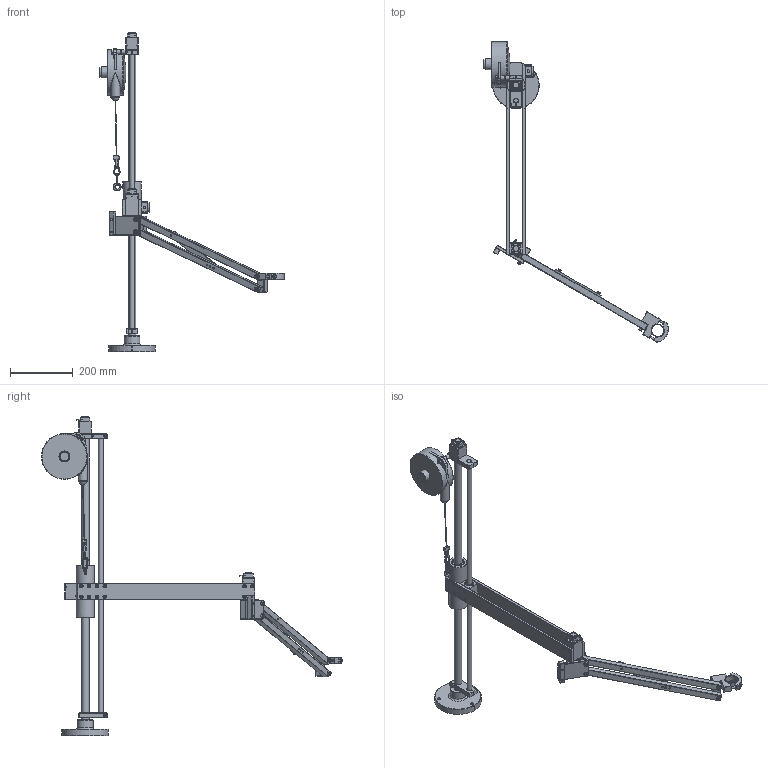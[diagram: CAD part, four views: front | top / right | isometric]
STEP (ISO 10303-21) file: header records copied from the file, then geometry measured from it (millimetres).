
FILE_DESCRIPTION( ( 'Unknown' ), '1' );
FILE_NAME( 'E:/0 Travail/0 Travaux en cours/Doga/Assemblage 2014/BIBLIOTEQUE 3D/Industrie 2008/08-51-3384 DOGA BA100 R RPC/4-1200477_bras BA 100 RPC_900/4-1200477_bras BA 100 RPC_900.stp', 'Unknown', ( 'Unknown' ), ( 'Unknown' ), 'PSStep 14.0', 'Unknown', ' ' );
FILE_SCHEMA( ( 'AUTOMOTIVE_DESIGN { 1 0 10303 214 1 1 1 1 }' ) );
Length unit declared in the file: millimetre
Products named in the file (57): Arrière bras BA100RPC rallongé 900; Fourreau BA100R; Piton M6; Douille KB16; AXE DIA 20; Support Pivot modifi\X2\00E\X0\; Douille KB25; Douille KB25-oa2; FHC M6x20; Roulement à aiguilles HK2020; Aimant; Butée à aiguilles AXK1730; Anneau élastique pour arbre 16; Pivot N°3 - BA100R DPA; Rondelle AS1730; Chapeau 5mm; Capteur de position angulaire QUADRO-R-oa3; Boitier de dérivation; plaque support BA100R RPC V2 rallongé 900; Plaque support BA100R RPC Rallongé 900; Asm Pince BA100R; CHC M6x45 fileté sous tete; CHC M6x45 fileté sous tete-oa0; collier; Pince BA100R; Placement'; Equilibreur BA100R modifi\X2\00E\X0\; Equilibreur 6 - 8Kg; Entretoise; Entretoise-oa1; CHC M8x50; Avant bras BA100RPC rallongé 900; Barrette; Règle immobilisatrice; Platine 2; 20 Z; Pivot pantographe BA100R DPA; CHC M6x25; CHC M6x25-oa4; CHC M8x40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
Assembly tree (79 placements, depth 3):
  Assem1
    Butée à aiguilles AXK1730
    Anneau élastique pour arbre 16
    Aimant
    Capteur de position angulaire QUADRO-R
    Roulement à aiguilles HK1616  x2
    fourreau pour BA100R DPA
    Rondelle AS1730  x2
    Cable
    Axe Ø16- BA100R DPA
    Platine fixation fourreau pour BA100R
    Platine fixation N°2 - BA100R DPA
    Mat BA100
      Vis HC M8x12 à bout plat
      Axe mat BA100
      Pied BA100
    Asm Pince BA100R
      CHC M6x45 fileté sous tete
      CHC M6x45 fileté sous tete-oa0
      collier
      Pince BA100R
      Placement'
    Equilibreur BA100R modifi\X2\00E\X0\
      Equilibreur 6 - 8Kg
      Entretoise
      Entretoise-oa1
      CHC M8x50
    Arrière bras BA100RPC rallongé 900
      Fourreau BA100R
      Piton M6
      Douille KB16
      AXE DIA 20
      Support Pivot modifi\X2\00E\X0\
      Douille KB25
      Douille KB25-oa2
      FHC M6x20  x16
      Roulement à aiguilles HK2020  x2
      Aimant
      Butée à aiguilles AXK1730
      Anneau élastique pour arbre 16
      Pivot N°3 - BA100R DPA
      Rondelle AS1730  x2
      Chapeau 5mm
      Capteur de position angulaire QUADRO-R-oa3
      Boitier de dérivation
      plaque support BA100R RPC V2 rallongé 900
      Plaque support BA100R RPC Rallongé 900
    Avant bras BA100RPC rallongé 900
      Barrette
      Règle immobilisatrice
      Platine 2
      20 Z
      Pivot pantographe BA100R DPA
      CHC M6x25
      CHC M6x25-oa4
      CHC M8x40
      CHC M8x40-oa5
      CHC M8x40-oa6
      CHC M8x40-oa7
      Carré supérieur BA100R RPC Rallongé 900
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Bounding box: 588.13 x 957.83 x 1016 mm (x, y, z)
Volume: 3938506.4 mm3; surface area: 789195.7 mm2
Topology: 74 solids, 74 shells, 1757 faces, 4170 edges, 2649 vertices
Faces by surface type: plane 976, cylinder 607, cone 119, torus 39, sphere 9, bspline 7
Full cylindrical faces by diameter (mm): 1.7 x4, 2 x1, 2.459 x21, 2.5 x6, 3 x4, 3.2 x4, 3.5 x2, 4.134 x6, 4.3 x2, 4.917 x12, 5 x14, 5.5 x6, 5.8 x20, 6 x53, 6.5 x2, 6.647 x2, 6.8 x6, 7 x1, 7.8 x5, 8 x14, 8.5 x2, 9 x4, 10 x4, 10.5 x3, 12 x1, 13 x7, 15.2 x2, 16 x8, 17 x6, 17.5 x2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
Entity records: 47971 total; most frequent: CARTESIAN_POINT 9806, DIRECTION 6131, ORIENTED_EDGE 5252, EDGE_CURVE 2626, AXIS2_PLACEMENT_3D 2320, EDGE_LOOP 2018, VERTEX_POINT 1828, FACE_OUTER_BOUND 1571
